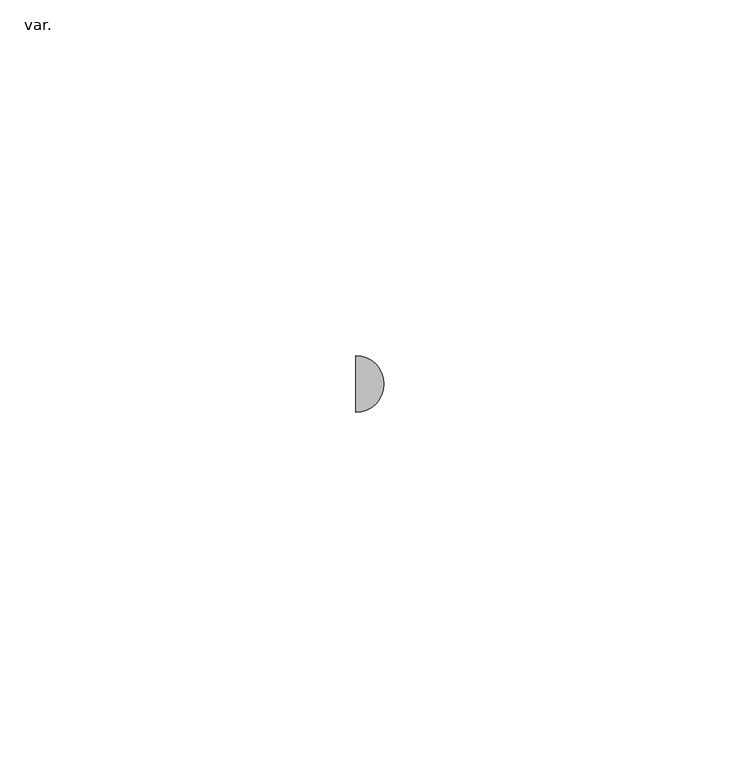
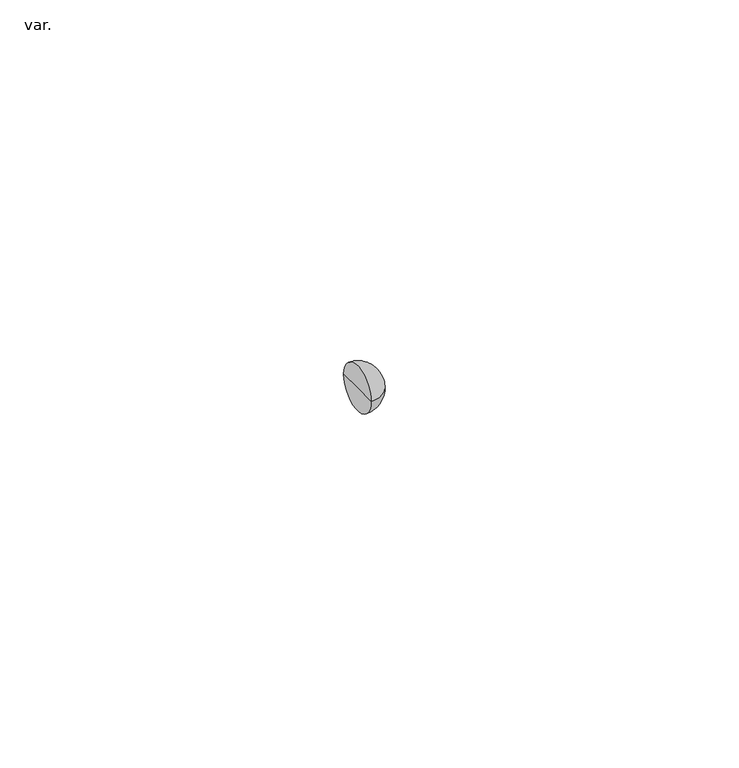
"""IFC4 building model written with IfcOpenShell, lengths in millimetres: pipe fitting geometry, NLRS_52_PIF_UN_Vacurain Flex multi T-stuk_Dyka : var.."""

from ifc_helpers import new_model, si_unit, point, frame, origin, place, context, project, spatial, circle_curve, ellipse_curve, trimmed, source, transform, mapped, element, save
from ifc_brep_helpers import plane_surface, revolved_surface, advanced_brep


def var_957ecca0(model_context):
    return source(origin(), model_context, "Body", "AdvancedBrep", [
        advanced_brep(
        [(-32.0, 0.0, 0.0), (-32.0, 4.0, 0.0), (-32.0, -4.0, 0.0), (-28.0, 0.0, 0.0)],
        [
            (0, 1),
            (1, 2, circle_curve(frame((-32.0, 0.0, 0.0), z_axis=(-1.0, 0.0, 0.0), x_axis=(0.0, 1.0, 0.0)), 4.0)),
            (2, 0),
            (2, 1, circle_curve(frame((-32.0, 0.0, 0.0), z_axis=(-1.0, 0.0, 0.0), x_axis=(0.0, 1.0, 0.0)), 4.0)),
            (1, 3, circle_curve(frame((-32.0, 0.0, 0.0), z_axis=(0.0, 0.0, -1.0), x_axis=(-1.0, 0.0, 0.0)), 4.0)),
            (3, 2, circle_curve(frame((-32.0, 0.0, 0.0), z_axis=(0.0, 0.0, -1.0), x_axis=(-1.0, 0.0, 0.0)), 4.0)),
        ],
        [
            plane_surface(frame((-32.0, 0.0, 0.0), z_axis=(-1.0, 0.0, 0.0), x_axis=(0.0, 1.0, 0.0))),
            revolved_surface(trimmed(ellipse_curve(frame((-32.0, 0.0, 0.0), z_axis=(0.0, 0.0, 1.0), x_axis=(-1.0, 0.0, 0.0)), 4.0, 4.0), [point((-28.0, 0.0, 0.0))], [point((-32.0, 4.0, 0.0))], True, "CARTESIAN"), (-30.2274263, 0.0, 0.0), (-1.0, 0.0, 0.0)),
        ],
        [
            (0, [[1, 2, 3]]),
            (0, [[-3, 4, -1]]),
            (1, [[-2, 5, 6]]),
            (1, [[-4, -6, -5]]),
        ],
    ),
    ])


if __name__ == "__main__":
    model = new_model("IFC4")
    model_context = context("Model", 3, world=origin())
    ifc_project = project(units=[si_unit("LENGTHUNIT", "METRE", prefix="MILLI")], contexts=[model_context])
    site = spatial("IfcSite", under=ifc_project)
    building = spatial("IfcBuilding", under=site)
    placement = place(None, origin())
    var_shape = var_957ecca0(model_context)
    element("IfcPipeFitting", 1, ObjectType="NLRS_52_PIF_UN_Vacurain Flex multi T-stuk_Dyka : var.", at=placement, inside=building, context=model_context, shape_type="MappedRepresentation", body=[
        mapped(var_shape, transform((0.0, 0.0, 0.0), x_axis=(1.0, 0.0, 0.0), y_axis=(0.0, 1.0, 0.0), z_axis=(0.0, 0.0, 1.0))),
    ])
    save(model, "model.ifc")
